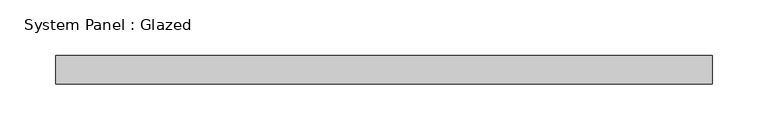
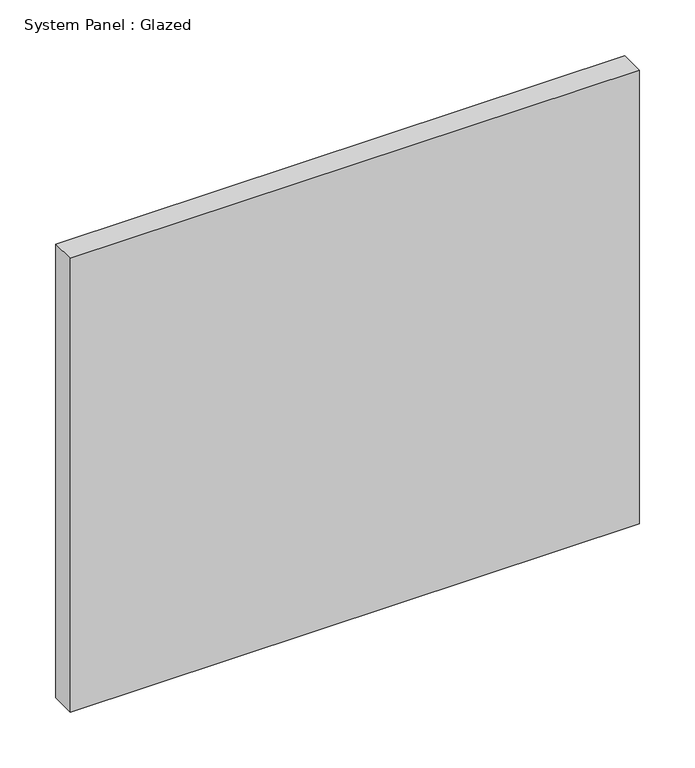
"""IFC4 building model written with IfcOpenShell, lengths in millimetres: plate geometry, System Panel : Glazed."""

import ifcopenshell
import ifcopenshell.guid

model = None  # the IFC model being written
_history = None  # IfcOwnerHistory: only IFC2X3 demands one
_inside = {}  # id of a spatial element -> (the spatial element, [elements in it])
_under = {}  # id of a project, library or spatial element -> (it, [spatial elements below it])
_declared = {}  # id of a project -> (the project, [libraries it declares])
_typed = {}  # id of a type object -> (the type object, [elements of that type])
_made_of = {}  # id of a material, layer set ... -> (it, [elements and type objects made of it])


def new_model(schema):
    """Start an empty IFC model of exactly this schema.

    Asked for "IFC4X3", IfcOpenShell would pick the latest addendum, in which some entities
    have other attributes; the version numbers below select the first issue.
    IFC2X3 requires an IfcOwnerHistory on every rooted entity: one is made here for all.
    """
    global model, _history
    if schema == "IFC4X3":
        model = ifcopenshell.file(schema_version=(4, 3, 0, 0))
    else:
        model = ifcopenshell.file(schema=schema)
    _inside.clear()
    _under.clear()
    _declared.clear()
    _typed.clear()
    _made_of.clear()
    _history = None
    if model.schema == "IFC2X3":
        org = make("IfcOrganization", Name="unknown")
        user = make(
            "IfcPersonAndOrganization",
            ThePerson=make("IfcPerson", FamilyName="unknown"),
            TheOrganization=org,
        )
        app = make(
            "IfcApplication",
            ApplicationDeveloper=org,
            Version="unknown",
            ApplicationFullName="unknown",
            ApplicationIdentifier="unknown",
        )
        _history = make(
            "IfcOwnerHistory",
            OwningUser=user,
            OwningApplication=app,
            ChangeAction="ADDED",
            CreationDate=0,
        )
    return model


def make(cls, **values):
    """One entity of the class cls with the attributes given. An attribute that is None is left unset."""
    return model.create_entity(
        cls, **{name: value for name, value in values.items() if value is not None}
    )


def rooted(cls, **values):
    """An entity with a GlobalId (a new one), such as an element, a storey or a relation."""
    return make(cls, GlobalId=ifcopenshell.guid.new(), OwnerHistory=_history, **values)


def si_unit(unit_type, name, prefix=None):
    """IfcSIUnit, for example si_unit("LENGTHUNIT", "METRE", prefix="MILLI")."""
    return make("IfcSIUnit", UnitType=unit_type, Prefix=prefix, Name=name)


def assignment(units):
    """IfcUnitAssignment: the units of a project."""
    return None if units is None else make("IfcUnitAssignment", Units=units)


def point(xyz):
    """IfcCartesianPoint."""
    return None if xyz is None else make("IfcCartesianPoint", Coordinates=xyz)


def direction(xyz):
    """IfcDirection."""
    return None if xyz is None else make("IfcDirection", DirectionRatios=xyz)


def frame(location, z_axis=None, x_axis=None):
    """IfcAxis2Placement3D, a coordinate frame: its origin and axes. An axis left out is left unset."""
    return make(
        "IfcAxis2Placement3D",
        Location=point(location),
        Axis=direction(z_axis),
        RefDirection=direction(x_axis),
    )


def origin():
    """The frame at (0, 0, 0) with its axes left unset."""
    return frame((0.0, 0.0, 0.0))


def origin_with_axes():
    """The frame at (0, 0, 0) with the z axis (0, 0, 1) and the x axis (1, 0, 0) written out."""
    return frame((0.0, 0.0, 0.0), z_axis=(0.0, 0.0, 1.0), x_axis=(1.0, 0.0, 0.0))


def place(relative_to, where):
    """IfcLocalPlacement: puts the frame where relative to a parent placement (None: the world)."""
    return make(
        "IfcLocalPlacement", PlacementRelTo=relative_to, RelativePlacement=where
    )


def context(
    kind, dimensions, precision=None, world=None, true_north=None, identifier=None
):
    """IfcGeometricRepresentationContext, for example the 3D "Model" context."""
    return make(
        "IfcGeometricRepresentationContext",
        ContextIdentifier=identifier,
        ContextType=kind,
        CoordinateSpaceDimension=dimensions,
        Precision=precision,
        WorldCoordinateSystem=world,
        TrueNorth=true_north,
    )


def project(units=None, contexts=None):
    """IfcProject with its units and contexts."""
    return rooted(
        "IfcProject",
        Name="project",
        RepresentationContexts=contexts,
        UnitsInContext=assignment(units),
    )


def spatial(cls, under=None, at=None, **own):
    """A site, building, storey or space (cls), placed at a placement, below another one or the project."""
    s = rooted(cls, ObjectPlacement=at, **own)
    if under is not None:
        _under.setdefault(under.id(), (under, []))[1].append(s)
    return s


def polyline(points):
    """IfcPolyline through the points."""
    return make("IfcPolyline", Points=[point(p) for p in points])


def outline(outer, holes=None, kind="AREA"):
    """IfcArbitraryClosedProfileDef: a profile drawn as a closed curve; with holes, ...WithVoids."""
    if holes is None:
        return make("IfcArbitraryClosedProfileDef", ProfileType=kind, OuterCurve=outer)
    return make(
        "IfcArbitraryProfileDefWithVoids",
        ProfileType=kind,
        OuterCurve=outer,
        InnerCurves=holes,
    )


def extrude(swept, where, along, depth):
    """IfcExtrudedAreaSolid: the profile swept, set in the frame where, extruded along a direction by depth."""
    return make(
        "IfcExtrudedAreaSolid",
        SweptArea=swept,
        Position=where,
        ExtrudedDirection=direction(along),
        Depth=depth,
    )


def shape(context_of_items, identifier, shape_type, items):
    """IfcShapeRepresentation: the items that make up one representation, for example the "Body"."""
    return make(
        "IfcShapeRepresentation",
        ContextOfItems=context_of_items,
        RepresentationIdentifier=identifier,
        RepresentationType=shape_type,
        Items=items,
    )


def source(mapping_origin, context_of_items, identifier, shape_type, items):
    """IfcRepresentationMap: a shape defined once, which mapped items show again and again."""
    return make(
        "IfcRepresentationMap",
        MappingOrigin=mapping_origin,
        MappedRepresentation=shape(context_of_items, identifier, shape_type, items),
    )


def transform(
    local_origin,
    x_axis=None,
    y_axis=None,
    z_axis=None,
    scale=None,
    scale2=None,
    scale3=None,
    uniform=True,
):
    """IfcCartesianTransformationOperator3D, or its non-uniform kind. x_axis, y_axis, z_axis: its Axis1, 2, 3."""
    if uniform:
        return make(
            "IfcCartesianTransformationOperator3D",
            Axis1=direction(x_axis),
            Axis2=direction(y_axis),
            LocalOrigin=point(local_origin),
            Scale=scale,
            Axis3=direction(z_axis),
        )
    return make(
        "IfcCartesianTransformationOperator3DnonUniform",
        Axis1=direction(x_axis),
        Axis2=direction(y_axis),
        LocalOrigin=point(local_origin),
        Scale=scale,
        Axis3=direction(z_axis),
        Scale2=scale2,
        Scale3=scale3,
    )


def mapped(mapping_source, mapping_target):
    """IfcMappedItem: shows the shape of a source again, moved by a transform."""
    return make(
        "IfcMappedItem", MappingSource=mapping_source, MappingTarget=mapping_target
    )


def made_of(thing, what):
    """Note that an element or type object is made of a material, layer set ...; save() writes the relation."""
    if what is not None:
        _made_of.setdefault(what.id(), (what, []))[1].append(thing)
    return thing


def element(
    cls,
    number,
    at=None,
    inside=None,
    cuts=None,
    type_object=None,
    material=None,
    context=None,
    identifier="Body",
    shape_type=None,
    held_by="IfcProductDefinitionShape",
    body=None,
    shapes=None,
    **own,
):
    """One element of the class cls, such as IfcWall. Its Tag is "e" and its number.

    at: its placement. inside: the storey or other place that contains it. cuts: it is an
    opening in that element (IfcRelVoidsElement). A single representation is given by context,
    identifier, shape_type and body (its items); several are given by shapes. held_by: the class
    of the entity that holds the representations. save() writes the other relations.
    """
    e = rooted(cls, Tag="e%d" % number, ObjectPlacement=at, **own)
    if body is not None:
        shapes = [shape(context, identifier, shape_type, body)]
    if shapes is not None:
        e.Representation = make(held_by, Representations=shapes)
    if inside is not None:
        _inside.setdefault(inside.id(), (inside, []))[1].append(e)
    if cuts is not None:
        rooted(
            "IfcRelVoidsElement", RelatingBuildingElement=cuts, RelatedOpeningElement=e
        )
    if type_object is not None:
        _typed.setdefault(type_object.id(), (type_object, []))[1].append(e)
    return made_of(e, material)


def aggregate(whole, parts):
    """IfcRelAggregates: a whole, such as a stair, and the parts it consists of."""
    return rooted("IfcRelAggregates", RelatingObject=whole, RelatedObjects=parts)


def save(model, path):
    """Write the relations noted so far, then the file.

    IfcRelAggregates (storeys below a building ...), IfcRelContainedInSpatialStructure (elements
    in a storey), IfcRelDefinesByType, IfcRelAssociatesMaterial and IfcRelDeclares: one each for
    every whole, place, type object, material and project.
    """
    for whole, parts in _under.values():
        aggregate(whole, parts)
    for where, things in _inside.values():
        rooted(
            "IfcRelContainedInSpatialStructure",
            RelatedElements=things,
            RelatingStructure=where,
        )
    for kind, things in _typed.values():
        rooted("IfcRelDefinesByType", RelatedObjects=things, RelatingType=kind)
    for what, things in _made_of.values():
        rooted("IfcRelAssociatesMaterial", RelatedObjects=things, RelatingMaterial=what)
    for by, libraries in _declared.values():
        rooted("IfcRelDeclares", RelatingContext=by, RelatedDefinitions=libraries)
    model.write(path)


def system_panel_glazed_938f432d(model_context):
    return source(origin(), model_context, "Body", "SweptSolid", [
        extrude(outline(polyline([(293.7924409, -12.7), (-293.7924409, -12.7), (-293.7924409, 12.7), (293.7924409, 12.7), (293.7924409, -12.7)])), origin_with_axes(), (0.0, 0.0, 1.0), 495.3),
    ])


if __name__ == "__main__":
    model = new_model("IFC4")
    model_context = context("Model", 3, world=origin())
    ifc_project = project(units=[si_unit("LENGTHUNIT", "METRE", prefix="MILLI")], contexts=[model_context])
    site = spatial("IfcSite", under=ifc_project)
    building = spatial("IfcBuilding", under=site)
    placement = place(None, origin())
    system_panel_glazed_shape = system_panel_glazed_938f432d(model_context)
    element("IfcPlate", 1, ObjectType="System Panel : Glazed", at=placement, inside=building, context=model_context, shape_type="MappedRepresentation", body=[
        mapped(system_panel_glazed_shape, transform((0.0, 0.0, 0.0), x_axis=(1.0, 0.0, 0.0), y_axis=(0.0, 1.0, 0.0), z_axis=(0.0, 0.0, 1.0))),
    ])
    save(model, "model.ifc")
